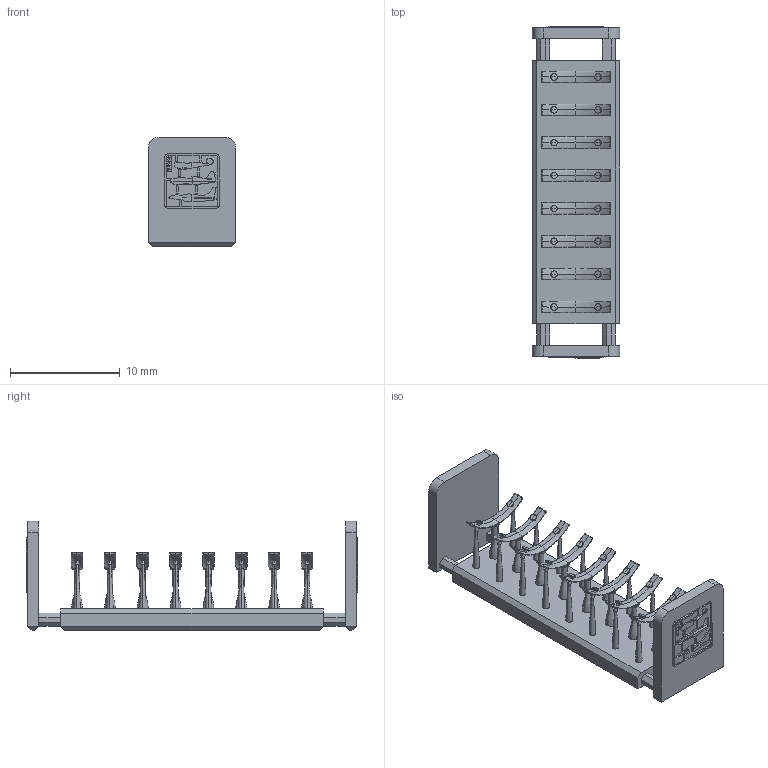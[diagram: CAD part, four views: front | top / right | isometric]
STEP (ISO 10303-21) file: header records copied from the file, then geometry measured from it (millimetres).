
FILE_DESCRIPTION(/* description */ (''),/* implementation_level */ '2;1');
FILE_NAME(/* name */ 'F6F-XB~1',/* time_stamp */ '2021-04-27T21:50:40+02:00',/* author */ (''),/* organization */ (''),/* preprocessor_version */ 'ST-DEVELOPER v16.5',/* originating_system */ '',/* authorisation */ '');
FILE_SCHEMA (('CONFIG_CONTROL_DESIGN'));
Length unit declared in the file: millimetre
Products named in the file (1): Document
Bounding box: 8 x 30.3 x 10 mm (x, y, z)
Volume: 575.8 mm3; surface area: 1197 mm2
Topology: 1 solids, 1 shells, 1045 faces, 2745 edges, 1618 vertices
Faces by surface type: bspline 534, plane 391, cylinder 120
Entity records: 81721 total; most frequent: CARTESIAN_POINT 64835, ORIENTED_EDGE 5298, EDGE_CURVE 2649, B_SPLINE_CURVE_WITH_KNOTS 2157, VERTEX_POINT 1618, EDGE_LOOP 1093, ADVANCED_FACE 1045, FACE_OUTER_BOUND 1045
